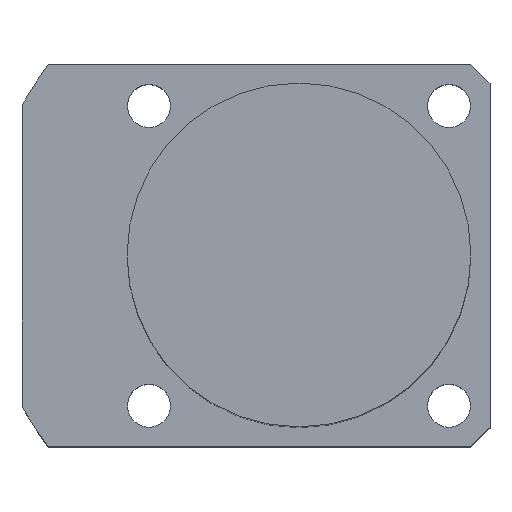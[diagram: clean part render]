
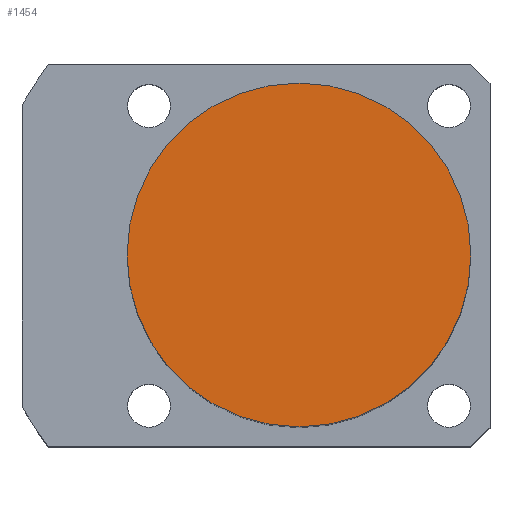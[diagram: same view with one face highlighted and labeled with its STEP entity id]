
A CAD part, top view. The second image highlights one B-rep face of the part: STEP entity #1454.
In plain terms, the highlighted planar face has unit normal (0, 0, 1).
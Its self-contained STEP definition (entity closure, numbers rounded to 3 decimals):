
#1396=CARTESIAN_POINT('',(-0.0,18.0,63.5));
#1397=VERTEX_POINT('',#1396);
#1404=CARTESIAN_POINT('',(18.0,0.0,63.5));
#1405=VERTEX_POINT('',#1404);
#1406=CARTESIAN_POINT('',(0.0,0.0,63.5));
#1407=DIRECTION('',(0.0,0.0,1.0));
#1408=DIRECTION('',(1.0,0.0,0.0));
#1409=AXIS2_PLACEMENT_3D('',#1406,#1407,#1408);
#1410=CIRCLE('',#1409,18.0);
#1411=EDGE_CURVE('no 1929',#1405,#1397,#1410,.T.);
#1413=CARTESIAN_POINT('',(-0.0,-18.0,63.5));
#1414=VERTEX_POINT('',#1413);
#1415=CARTESIAN_POINT('',(0.0,0.0,63.5));
#1416=DIRECTION('',(0.0,0.0,1.0));
#1417=DIRECTION('',(1.0,0.0,0.0));
#1418=AXIS2_PLACEMENT_3D('',#1415,#1416,#1417);
#1419=CIRCLE('',#1418,18.0);
#1420=EDGE_CURVE('no 1935',#1414,#1405,#1419,.T.);
#1438=ORIENTED_EDGE('',*,*,#1411,.T.);
#1439=CARTESIAN_POINT('',(0.0,0.0,63.5));
#1440=DIRECTION('',(0.0,0.0,1.0));
#1441=DIRECTION('',(1.0,0.0,0.0));
#1442=AXIS2_PLACEMENT_3D('',#1439,#1440,#1441);
#1443=CIRCLE('',#1442,18.0);
#1444=EDGE_CURVE('no 1952',#1397,#1414,#1443,.T.);
#1445=ORIENTED_EDGE('',*,*,#1444,.T.);
#1446=ORIENTED_EDGE('',*,*,#1420,.T.);
#1447=EDGE_LOOP('',(#1438,#1445,#1446));
#1448=FACE_OUTER_BOUND('',#1447,.T.);
#1449=CARTESIAN_POINT('',(0.0,0.0,63.5));
#1450=DIRECTION('',(0.0,0.0,1.0));
#1451=DIRECTION('',(1.0,0.0,0.0));
#1452=AXIS2_PLACEMENT_3D('',#1449,#1450,#1451);
#1453=PLANE('',#1452);
#1454=ADVANCED_FACE('no 1945',(#1448),#1453,.T.);
